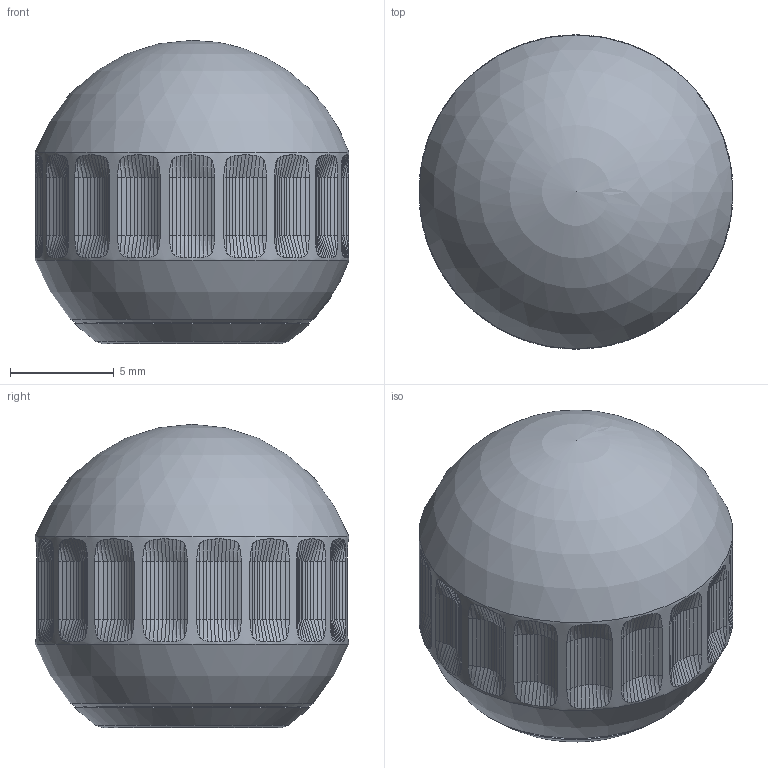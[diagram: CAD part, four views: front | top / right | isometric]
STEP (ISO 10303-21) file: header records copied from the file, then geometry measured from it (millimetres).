
FILE_DESCRIPTION(('Open CASCADE Model'),'2;1');
FILE_NAME('RL-BALL-knob-16','2026-10-19T21:25:47',('Author'),( 'Open CASCADE'),'Open CASCADE STEP processor 8.0','build123d', 'Unknown');
FILE_SCHEMA(('AUTOMOTIVE_DESIGN { 1 0 10303 214 1 1 1 1 }'));
Length unit declared in the file: millimetre
Products named in the file (2): RL-BALL-knob-16; brass_RL-BALL16__k
Assembly tree (1 placements, depth 2):
  RL-BALL-knob-16
    brass_RL-BALL16__k
Bounding box: 15.13 x 15.13 x 14.61 mm (x, y, z)
Volume: 1870.2 mm3; surface area: 924.1 mm2
Topology: 1 solids, 1 shells, 660 faces, 1515 edges, 876 vertices
Faces by surface type: bspline 433, plane 219, sphere 3, cylinder 3, cone 2
Full cylindrical faces by diameter (mm): 3.3 x1, 5.1 x1, 15.131 x1
Entity records: 44660 total; most frequent: CARTESIAN_POINT 19657, ORIENTED_EDGE 3028, PCURVE 3028, DEFINITIONAL_REPRESENTATION 3028, B_SPLINE_CURVE_WITH_KNOTS 2509, DIRECTION 2503, LINE 2017, VECTOR 2017
